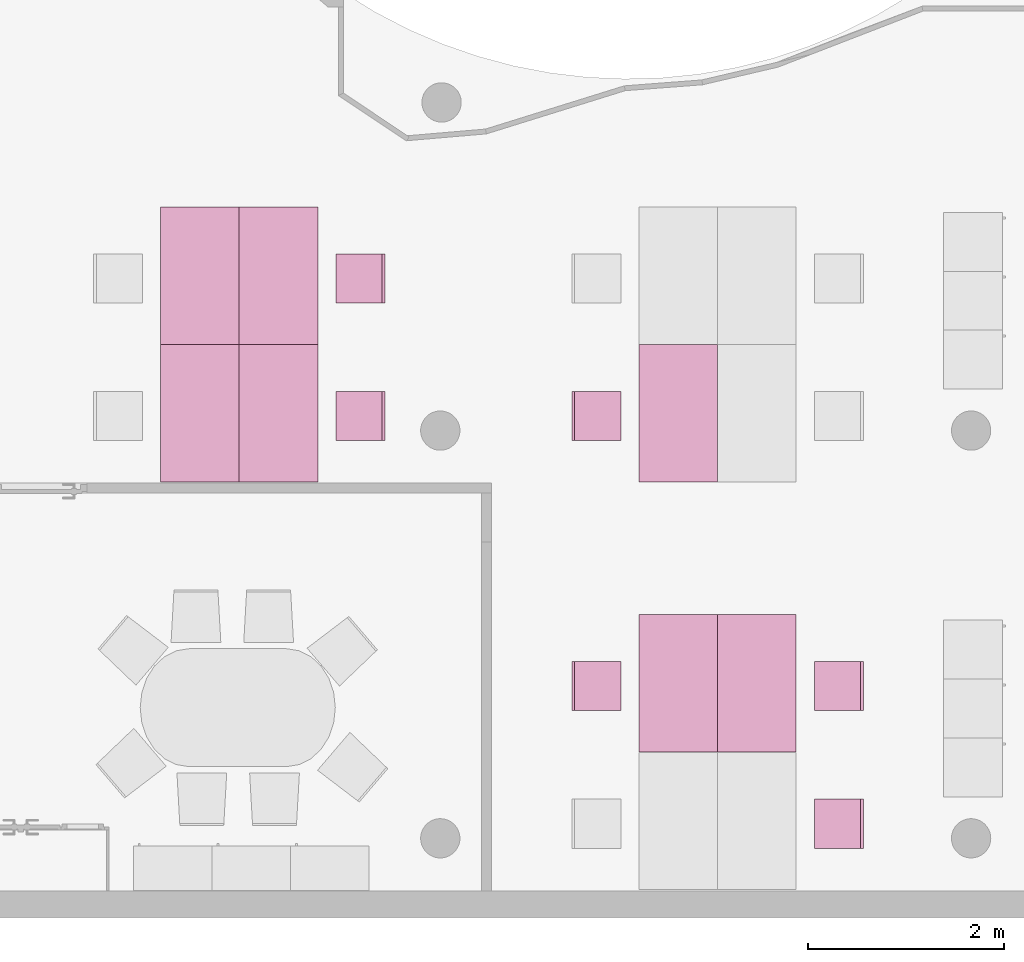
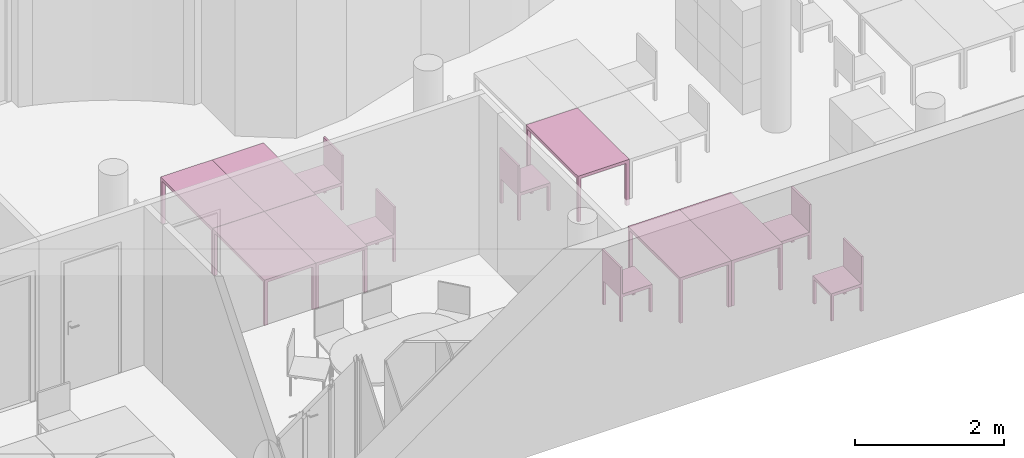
"""IFC4 building model written with IfcOpenShell, lengths in metres."""

from ifc_helpers import new_model, entity, si_unit, converted_unit, derived_unit, frame, origin, place, context, subcontext, project, spatial, faceted_brep, element, save


model = new_model("IFC4")

# Units and contexts
model_context = context("Model", 3, precision=1e-05, world=origin())
body_context = subcontext(model_context, "Body", "Model", "MODEL_VIEW")
ifc_project = project(units=[si_unit("LENGTHUNIT", "METRE"), si_unit("AREAUNIT", "SQUARE_METRE"), si_unit("VOLUMEUNIT", "CUBIC_METRE"), si_unit("MASSUNIT", "GRAM", prefix="KILO"), converted_unit("PLANEANGLEUNIT", "DEGREE", entity("IfcPlaneAngleMeasure", 0.0174532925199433), si_unit("PLANEANGLEUNIT", "RADIAN"), dimensions=[0, 0, 0, 0, 0, 0, 0]), derived_unit("THERMALTRANSMITTANCEUNIT", [(si_unit("POWERUNIT", "WATT"), 1), (si_unit("THERMODYNAMICTEMPERATUREUNIT", "KELVIN"), -1), (si_unit("LENGTHUNIT", "METRE"), -2)]), derived_unit("VOLUMETRICFLOWRATEUNIT", [(si_unit("LENGTHUNIT", "METRE"), 3), (converted_unit("TIMEUNIT", "hour", entity("IfcTimeMeasure", 3600.0), si_unit("TIMEUNIT", "SECOND"), dimensions=[0, 0, 1, 0, 0, 0, 0]), -1), (si_unit("LENGTHUNIT", "METRE"), -1)])], contexts=[model_context])

# Building, storeys
building_placement = place(None, origin())
building = spatial("IfcBuilding", under=ifc_project, at=building_placement, Name="HABITATGE PLURIFAMILIAR", CompositionType="ELEMENT")
storey_1_placement = place(building_placement, frame((0.0, 0.0, 12.27)))
storey_1 = spatial("IfcBuildingStorey", under=building, at=storey_1_placement, Name="PLANTA TERCERA", CompositionType="ELEMENT", Elevation=12.27)
storey_2_placement = place(storey_1_placement, frame((0.0, 0.0, 9.26)))
storey_2 = spatial("IfcBuildingStorey", under=storey_1, at=storey_2_placement, Name="NOU", CompositionType="PARTIAL")

# Furniture
furniture_1_placement = place(storey_2_placement, frame((413.556732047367, 14.5280503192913, -9.3599999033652)))
element("IfcFurniture", 1, at=furniture_1_placement, inside=storey_2, Name="Taula 140X80_P3", context=body_context, shape_type="Brep", body=[
    faceted_brep([(0.05, 0.0437500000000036, 0.0), (0.0, 0.0437500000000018, 0.0), (0.0, 0.0, 0.0), (0.05, 0.0, 0.0), (0.0, 0.0437500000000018, 0.7), (0.05, 0.0437500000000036, 0.7), (0.05, 0.0, 0.7), (0.0, 0.0, 0.7)], [[[0, 1, 2, 3]], [[4, 5, 6, 7]], [[1, 0, 5, 4]], [[2, 1, 4, 7]], [[3, 2, 7, 6]], [[0, 3, 6, 5]]], orient=[[False], [False], [False], [False], [False], [False]]),
    faceted_brep([(0.800069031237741, 0.0437500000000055, 0.0), (0.750069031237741, 0.0437500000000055, 0.0), (0.750069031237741, 0.0, 0.0), (0.800069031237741, 0.0, 0.0), (0.750069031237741, 0.0437500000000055, 0.7), (0.800069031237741, 0.0437500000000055, 0.7), (0.800069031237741, 0.0, 0.7), (0.750069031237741, 0.0, 0.7)], [[[0, 1, 2, 3]], [[4, 5, 6, 7]], [[1, 0, 5, 4]], [[2, 1, 4, 7]], [[3, 2, 7, 6]], [[0, 3, 6, 5]]], orient=[[False], [False], [False], [False], [False], [False]]),
    faceted_brep([(0.800069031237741, 1.39732768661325, 0.7), (0.0, 1.39732768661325, 0.7), (0.0, 0.0, 0.7), (0.800069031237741, 0.0, 0.7), (0.0, 1.39732768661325, 0.75), (0.800069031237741, 1.39732768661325, 0.75), (0.800069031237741, 0.0, 0.75), (0.0, 0.0, 0.75)], [[[0, 1, 2, 3]], [[4, 5, 6, 7]], [[1, 0, 5, 4]], [[2, 1, 4, 7]], [[3, 2, 7, 6]], [[0, 3, 6, 5]]], orient=[[False], [False], [False], [False], [False], [False]]),
    faceted_brep([(0.05, 1.39732768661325, 0.0), (0.0, 1.39732768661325, 0.0), (0.0, 1.35357768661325, 0.0), (0.05, 1.35357768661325, 0.0), (0.0, 1.39732768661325, 0.7), (0.05, 1.39732768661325, 0.7), (0.05, 1.35357768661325, 0.7), (0.0, 1.35357768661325, 0.7)], [[[0, 1, 2, 3]], [[4, 5, 6, 7]], [[1, 0, 5, 4]], [[2, 1, 4, 7]], [[3, 2, 7, 6]], [[0, 3, 6, 5]]], orient=[[False], [False], [False], [False], [False], [False]]),
    faceted_brep([(0.800069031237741, 1.39732768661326, 0.0), (0.750069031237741, 1.39732768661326, 0.0), (0.750069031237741, 1.35357768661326, 0.0), (0.800069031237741, 1.35357768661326, 0.0), (0.750069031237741, 1.39732768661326, 0.7), (0.800069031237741, 1.39732768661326, 0.7), (0.800069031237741, 1.35357768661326, 0.7), (0.750069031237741, 1.35357768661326, 0.7)], [[[0, 1, 2, 3]], [[4, 5, 6, 7]], [[1, 0, 5, 4]], [[2, 1, 4, 7]], [[3, 2, 7, 6]], [[0, 3, 6, 5]]], orient=[[False], [False], [False], [False], [False], [False]]),
])
furniture_2_placement = place(storey_2_placement, frame((412.75666301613, 14.5280503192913, -9.3599999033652)))
element("IfcFurniture", 2, at=furniture_2_placement, inside=storey_2, Name="Taula 140X80_P3", context=body_context, shape_type="Brep", body=[
    faceted_brep([(0.750069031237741, 0.0437500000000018, 0.0), (0.750069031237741, 0.0, 0.0), (0.800069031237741, 0.0, 0.0), (0.800069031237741, 0.0437500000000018, 0.0), (0.800069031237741, 0.0437500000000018, 0.7), (0.800069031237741, 0.0, 0.7), (0.750069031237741, 0.0, 0.7), (0.750069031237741, 0.0437500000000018, 0.7)], [[[0, 1, 2, 3]], [[4, 5, 6, 7]], [[3, 4, 7, 0]], [[2, 5, 4, 3]], [[1, 6, 5, 2]], [[0, 7, 6, 1]]], orient=[[False], [False], [False], [False], [False], [False]]),
    faceted_brep([(0.0, 0.0437500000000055, 0.0), (0.0, 0.0, 0.0), (0.05, 0.0, 0.0), (0.05, 0.0437500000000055, 0.0), (0.05, 0.0437500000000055, 0.7), (0.05, 0.0, 0.7), (0.0, 0.0, 0.7), (0.0, 0.0437500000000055, 0.7)], [[[0, 1, 2, 3]], [[4, 5, 6, 7]], [[3, 4, 7, 0]], [[2, 5, 4, 3]], [[1, 6, 5, 2]], [[0, 7, 6, 1]]], orient=[[False], [False], [False], [False], [False], [False]]),
    faceted_brep([(0.0, 1.39732768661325, 0.7), (0.0, 0.0, 0.7), (0.800069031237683, 0.0, 0.7), (0.800069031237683, 1.39732768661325, 0.7), (0.800069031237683, 1.39732768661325, 0.75), (0.800069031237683, 0.0, 0.75), (0.0, 0.0, 0.75), (0.0, 1.39732768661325, 0.75)], [[[0, 1, 2, 3]], [[4, 5, 6, 7]], [[3, 4, 7, 0]], [[2, 5, 4, 3]], [[1, 6, 5, 2]], [[0, 7, 6, 1]]], orient=[[False], [False], [False], [False], [False], [False]]),
    faceted_brep([(0.750069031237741, 1.39732768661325, 0.0), (0.750069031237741, 1.35357768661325, 0.0), (0.800069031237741, 1.35357768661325, 0.0), (0.800069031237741, 1.39732768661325, 0.0), (0.800069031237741, 1.39732768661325, 0.7), (0.800069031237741, 1.35357768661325, 0.7), (0.750069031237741, 1.35357768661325, 0.7), (0.750069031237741, 1.39732768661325, 0.7)], [[[0, 1, 2, 3]], [[4, 5, 6, 7]], [[3, 4, 7, 0]], [[2, 5, 4, 3]], [[1, 6, 5, 2]], [[0, 7, 6, 1]]], orient=[[False], [False], [False], [False], [False], [False]]),
    faceted_brep([(0.0, 1.39732768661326, 0.0), (0.0, 1.35357768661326, 0.0), (0.05, 1.35357768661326, 0.0), (0.05, 1.39732768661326, 0.0), (0.05, 1.39732768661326, 0.7), (0.05, 1.35357768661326, 0.7), (0.0, 1.35357768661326, 0.7), (0.0, 1.39732768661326, 0.7)], [[[0, 1, 2, 3]], [[4, 5, 6, 7]], [[3, 4, 7, 0]], [[2, 5, 4, 3]], [[1, 6, 5, 2]], [[0, 7, 6, 1]]], orient=[[False], [False], [False], [False], [False], [False]]),
])
furniture_3_placement = place(storey_2_placement, frame((414.540943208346, 13.5480313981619, -9.35590342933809)))
element("IfcFurniture", 3, at=furniture_3_placement, inside=storey_2, Name="Cadira d'Oficina_P3", context=body_context, shape_type="Brep", body=[
    faceted_brep([(0.0, 0.500000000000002, 0.4), (0.0, 0.0, 0.4), (0.5, 0.0, 0.4), (0.5, 0.5, 0.4), (0.5, 0.5, 0.45), (0.5, 0.0, 0.45), (0.0, 0.0, 0.45), (0.0, 0.500000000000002, 0.45)], [[[0, 1, 2, 3]], [[4, 5, 6, 7]], [[3, 4, 7, 0]], [[2, 5, 4, 3]], [[1, 6, 5, 2]], [[0, 7, 6, 1]]], orient=[[False], [False], [False], [False], [False], [False]]),
    faceted_brep([(0.46, 0.0, 0.0), (0.5, 0.0, 0.0), (0.5, 0.04, 0.0), (0.46, 0.0400000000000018, 0.0), (0.46, 0.0400000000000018, 0.4), (0.5, 0.04, 0.4), (0.5, 0.0, 0.4), (0.46, 0.0, 0.4)], [[[0, 1, 2, 3]], [[4, 5, 6, 7]], [[3, 4, 7, 0]], [[2, 5, 4, 3]], [[1, 6, 5, 2]], [[0, 7, 6, 1]]], orient=[[False], [False], [False], [False], [False], [False]]),
    faceted_brep([(0.0, 0.0, 0.0), (0.04, 0.0, 0.0), (0.04, 0.0400000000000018, 0.0), (0.0, 0.0400000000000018, 0.0), (0.0, 0.0400000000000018, 0.4), (0.04, 0.0400000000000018, 0.4), (0.04, 0.0, 0.4), (0.0, 0.0, 0.4)], [[[0, 1, 2, 3]], [[4, 5, 6, 7]], [[3, 4, 7, 0]], [[2, 5, 4, 3]], [[1, 6, 5, 2]], [[0, 7, 6, 1]]], orient=[[False], [False], [False], [False], [False], [False]]),
    faceted_brep([(0.46, 0.46, 0.0), (0.5, 0.46, 0.0), (0.5, 0.5, 0.0), (0.46, 0.5, 0.0), (0.46, 0.5, 0.4), (0.5, 0.5, 0.4), (0.5, 0.46, 0.4), (0.46, 0.46, 0.4)], [[[0, 1, 2, 3]], [[4, 5, 6, 7]], [[3, 4, 7, 0]], [[2, 5, 4, 3]], [[1, 6, 5, 2]], [[0, 7, 6, 1]]], orient=[[False], [False], [False], [False], [False], [False]]),
    faceted_brep([(0.0, 0.460000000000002, 0.0), (0.04, 0.460000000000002, 0.0), (0.04, 0.500000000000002, 0.0), (0.0, 0.500000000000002, 0.0), (0.0, 0.500000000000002, 0.4), (0.04, 0.500000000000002, 0.4), (0.04, 0.460000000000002, 0.4), (0.0, 0.460000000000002, 0.4)], [[[0, 1, 2, 3]], [[4, 5, 6, 7]], [[3, 4, 7, 0]], [[2, 5, 4, 3]], [[1, 6, 5, 2]], [[0, 7, 6, 1]]], orient=[[False], [False], [False], [False], [False], [False]]),
    faceted_brep([(0.47, 0.0, 0.45), (0.5, 0.0, 0.45), (0.5, 0.5, 0.45), (0.47, 0.5, 0.45), (0.47, 0.5, 0.9), (0.5, 0.5, 0.9), (0.5, 0.0, 0.9), (0.47, 0.0, 0.9)], [[[0, 1, 2, 3]], [[4, 5, 6, 7]], [[3, 4, 7, 0]], [[2, 5, 4, 3]], [[1, 6, 5, 2]], [[0, 7, 6, 1]]], orient=[[False], [False], [False], [False], [False], [False]]),
])
furniture_4_placement = place(storey_2_placement, frame((414.540943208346, 14.9492104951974, -9.35590342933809)))
element("IfcFurniture", 4, at=furniture_4_placement, inside=storey_2, Name="Cadira d'Oficina_P3", context=body_context, shape_type="Brep", body=[
    faceted_brep([(0.0, 0.500000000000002, 0.4), (0.0, 0.0, 0.4), (0.5, 0.0, 0.4), (0.5, 0.5, 0.4), (0.5, 0.5, 0.45), (0.5, 0.0, 0.45), (0.0, 0.0, 0.45), (0.0, 0.500000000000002, 0.45)], [[[0, 1, 2, 3]], [[4, 5, 6, 7]], [[3, 4, 7, 0]], [[2, 5, 4, 3]], [[1, 6, 5, 2]], [[0, 7, 6, 1]]], orient=[[False], [False], [False], [False], [False], [False]]),
    faceted_brep([(0.46, 0.0, 0.0), (0.5, 0.0, 0.0), (0.5, 0.04, 0.0), (0.46, 0.0400000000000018, 0.0), (0.46, 0.0400000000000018, 0.4), (0.5, 0.04, 0.4), (0.5, 0.0, 0.4), (0.46, 0.0, 0.4)], [[[0, 1, 2, 3]], [[4, 5, 6, 7]], [[3, 4, 7, 0]], [[2, 5, 4, 3]], [[1, 6, 5, 2]], [[0, 7, 6, 1]]], orient=[[False], [False], [False], [False], [False], [False]]),
    faceted_brep([(0.0, 0.0, 0.0), (0.04, 0.0, 0.0), (0.04, 0.0400000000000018, 0.0), (0.0, 0.0400000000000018, 0.0), (0.0, 0.0400000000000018, 0.4), (0.04, 0.0400000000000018, 0.4), (0.04, 0.0, 0.4), (0.0, 0.0, 0.4)], [[[0, 1, 2, 3]], [[4, 5, 6, 7]], [[3, 4, 7, 0]], [[2, 5, 4, 3]], [[1, 6, 5, 2]], [[0, 7, 6, 1]]], orient=[[False], [False], [False], [False], [False], [False]]),
    faceted_brep([(0.46, 0.46, 0.0), (0.5, 0.46, 0.0), (0.5, 0.5, 0.0), (0.46, 0.5, 0.0), (0.46, 0.5, 0.4), (0.5, 0.5, 0.4), (0.5, 0.46, 0.4), (0.46, 0.46, 0.4)], [[[0, 1, 2, 3]], [[4, 5, 6, 7]], [[3, 4, 7, 0]], [[2, 5, 4, 3]], [[1, 6, 5, 2]], [[0, 7, 6, 1]]], orient=[[False], [False], [False], [False], [False], [False]]),
    faceted_brep([(0.0, 0.460000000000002, 0.0), (0.04, 0.460000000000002, 0.0), (0.04, 0.500000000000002, 0.0), (0.0, 0.500000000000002, 0.0), (0.0, 0.500000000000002, 0.4), (0.04, 0.500000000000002, 0.4), (0.04, 0.460000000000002, 0.4), (0.0, 0.460000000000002, 0.4)], [[[0, 1, 2, 3]], [[4, 5, 6, 7]], [[3, 4, 7, 0]], [[2, 5, 4, 3]], [[1, 6, 5, 2]], [[0, 7, 6, 1]]], orient=[[False], [False], [False], [False], [False], [False]]),
    faceted_brep([(0.47, 0.0, 0.45), (0.5, 0.0, 0.45), (0.5, 0.5, 0.45), (0.47, 0.5, 0.45), (0.47, 0.5, 0.9), (0.5, 0.5, 0.9), (0.5, 0.0, 0.9), (0.47, 0.0, 0.9)], [[[0, 1, 2, 3]], [[4, 5, 6, 7]], [[3, 4, 7, 0]], [[2, 5, 4, 3]], [[1, 6, 5, 2]], [[0, 7, 6, 1]]], orient=[[False], [False], [False], [False], [False], [False]]),
])
furniture_5_placement = place(storey_2_placement, frame((412.072520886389, 14.9492104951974, -9.3546338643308)))
element("IfcFurniture", 5, at=furniture_5_placement, inside=storey_2, Name="Cadira d'Oficina_P3", context=body_context, shape_type="Brep", body=[
    faceted_brep([(0.500000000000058, 0.500000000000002, 0.4), (0.0, 0.5, 0.4), (0.0, 0.0, 0.4), (0.500000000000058, 0.0, 0.4), (0.0, 0.5, 0.45), (0.500000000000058, 0.500000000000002, 0.45), (0.500000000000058, 0.0, 0.45), (0.0, 0.0, 0.45)], [[[0, 1, 2, 3]], [[4, 5, 6, 7]], [[1, 0, 5, 4]], [[2, 1, 4, 7]], [[3, 2, 7, 6]], [[0, 3, 6, 5]]], orient=[[False], [False], [False], [False], [False], [False]]),
    faceted_brep([(0.0400000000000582, 0.0, 0.0), (0.0400000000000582, 0.0400000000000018, 0.0), (0.0, 0.04, 0.0), (0.0, 0.0, 0.0), (0.0400000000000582, 0.0400000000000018, 0.4), (0.0400000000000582, 0.0, 0.4), (0.0, 0.0, 0.4), (0.0, 0.04, 0.4)], [[[0, 1, 2, 3]], [[4, 5, 6, 7]], [[1, 0, 5, 4]], [[2, 1, 4, 7]], [[3, 2, 7, 6]], [[0, 3, 6, 5]]], orient=[[False], [False], [False], [False], [False], [False]]),
    faceted_brep([(0.500000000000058, 0.0, 0.0), (0.500000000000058, 0.0400000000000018, 0.0), (0.460000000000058, 0.0400000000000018, 0.0), (0.460000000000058, 0.0, 0.0), (0.500000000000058, 0.0400000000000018, 0.4), (0.500000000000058, 0.0, 0.4), (0.460000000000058, 0.0, 0.4), (0.460000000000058, 0.0400000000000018, 0.4)], [[[0, 1, 2, 3]], [[4, 5, 6, 7]], [[1, 0, 5, 4]], [[2, 1, 4, 7]], [[3, 2, 7, 6]], [[0, 3, 6, 5]]], orient=[[False], [False], [False], [False], [False], [False]]),
    faceted_brep([(0.04, 0.46, 0.0), (0.04, 0.5, 0.0), (0.0, 0.5, 0.0), (0.0, 0.46, 0.0), (0.04, 0.5, 0.4), (0.04, 0.46, 0.4), (0.0, 0.46, 0.4), (0.0, 0.5, 0.4)], [[[0, 1, 2, 3]], [[4, 5, 6, 7]], [[1, 0, 5, 4]], [[2, 1, 4, 7]], [[3, 2, 7, 6]], [[0, 3, 6, 5]]], orient=[[False], [False], [False], [False], [False], [False]]),
    faceted_brep([(0.500000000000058, 0.460000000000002, 0.0), (0.500000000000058, 0.500000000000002, 0.0), (0.460000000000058, 0.500000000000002, 0.0), (0.460000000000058, 0.460000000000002, 0.0), (0.500000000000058, 0.500000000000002, 0.4), (0.500000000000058, 0.460000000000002, 0.4), (0.460000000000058, 0.460000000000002, 0.4), (0.460000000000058, 0.500000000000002, 0.4)], [[[0, 1, 2, 3]], [[4, 5, 6, 7]], [[1, 0, 5, 4]], [[2, 1, 4, 7]], [[3, 2, 7, 6]], [[0, 3, 6, 5]]], orient=[[False], [False], [False], [False], [False], [False]]),
    faceted_brep([(0.0300000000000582, 0.0, 0.45), (0.03, 0.5, 0.45), (0.0, 0.5, 0.45), (0.0, 0.0, 0.45), (0.03, 0.5, 0.9), (0.0300000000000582, 0.0, 0.9), (0.0, 0.0, 0.9), (0.0, 0.5, 0.9)], [[[0, 1, 2, 3]], [[4, 5, 6, 7]], [[1, 0, 5, 4]], [[2, 1, 4, 7]], [[3, 2, 7, 6]], [[0, 3, 6, 5]]], orient=[[False], [False], [False], [False], [False], [False]]),
])
furniture_6_placement = place(storey_2_placement, frame((412.75666301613, 17.2768712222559, -9.3599999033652)))
element("IfcFurniture", 6, at=furniture_6_placement, inside=storey_2, Name="Taula 140X80_P3", context=body_context, shape_type="Brep", body=[
    faceted_brep([(0.750069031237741, 0.04375, 0.0), (0.750069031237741, 0.0, 0.0), (0.800069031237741, 0.0, 0.0), (0.800069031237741, 0.04375, 0.0), (0.800069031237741, 0.04375, 0.7), (0.800069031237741, 0.0, 0.7), (0.750069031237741, 0.0, 0.7), (0.750069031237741, 0.04375, 0.7)], [[[0, 1, 2, 3]], [[4, 5, 6, 7]], [[3, 4, 7, 0]], [[2, 5, 4, 3]], [[1, 6, 5, 2]], [[0, 7, 6, 1]]], orient=[[False], [False], [False], [False], [False], [False]]),
    faceted_brep([(0.0, 0.04375, 0.0), (0.0, 0.0, 0.0), (0.05, 0.0, 0.0), (0.05, 0.04375, 0.0), (0.05, 0.04375, 0.7), (0.05, 0.0, 0.7), (0.0, 0.0, 0.7), (0.0, 0.04375, 0.7)], [[[0, 1, 2, 3]], [[4, 5, 6, 7]], [[3, 4, 7, 0]], [[2, 5, 4, 3]], [[1, 6, 5, 2]], [[0, 7, 6, 1]]], orient=[[False], [False], [False], [False], [False], [False]]),
    faceted_brep([(0.0, 1.39732768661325, 0.7), (0.0, 0.0, 0.7), (0.800069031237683, 0.0, 0.7), (0.800069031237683, 1.39732768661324, 0.7), (0.800069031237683, 1.39732768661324, 0.75), (0.800069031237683, 0.0, 0.75), (0.0, 0.0, 0.75), (0.0, 1.39732768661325, 0.75)], [[[0, 1, 2, 3]], [[4, 5, 6, 7]], [[3, 4, 7, 0]], [[2, 5, 4, 3]], [[1, 6, 5, 2]], [[0, 7, 6, 1]]], orient=[[False], [False], [False], [False], [False], [False]]),
    faceted_brep([(0.750069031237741, 1.39732768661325, 0.0), (0.750069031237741, 1.35357768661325, 0.0), (0.800069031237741, 1.35357768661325, 0.0), (0.800069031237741, 1.39732768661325, 0.0), (0.800069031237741, 1.39732768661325, 0.7), (0.800069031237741, 1.35357768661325, 0.7), (0.750069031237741, 1.35357768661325, 0.7), (0.750069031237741, 1.39732768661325, 0.7)], [[[0, 1, 2, 3]], [[4, 5, 6, 7]], [[3, 4, 7, 0]], [[2, 5, 4, 3]], [[1, 6, 5, 2]], [[0, 7, 6, 1]]], orient=[[False], [False], [False], [False], [False], [False]]),
    faceted_brep([(0.0, 1.39732768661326, 0.0), (0.0, 1.35357768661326, 0.0), (0.05, 1.35357768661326, 0.0), (0.05, 1.39732768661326, 0.0), (0.05, 1.39732768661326, 0.7), (0.05, 1.35357768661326, 0.7), (0.0, 1.35357768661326, 0.7), (0.0, 1.39732768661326, 0.7)], [[[0, 1, 2, 3]], [[4, 5, 6, 7]], [[3, 4, 7, 0]], [[2, 5, 4, 3]], [[1, 6, 5, 2]], [[0, 7, 6, 1]]], orient=[[False], [False], [False], [False], [False], [False]]),
])
furniture_7_placement = place(storey_2_placement, frame((412.072520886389, 17.6980313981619, -9.3546338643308)))
element("IfcFurniture", 7, at=furniture_7_placement, inside=storey_2, Name="Cadira d'Oficina_P3", context=body_context, shape_type="Brep", body=[
    faceted_brep([(0.500000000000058, 0.5, 0.4), (0.0, 0.5, 0.4), (0.0, 0.0, 0.4), (0.500000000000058, 0.0, 0.4), (0.0, 0.5, 0.45), (0.500000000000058, 0.5, 0.45), (0.500000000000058, 0.0, 0.45), (0.0, 0.0, 0.45)], [[[0, 1, 2, 3]], [[4, 5, 6, 7]], [[1, 0, 5, 4]], [[2, 1, 4, 7]], [[3, 2, 7, 6]], [[0, 3, 6, 5]]], orient=[[False], [False], [False], [False], [False], [False]]),
    faceted_brep([(0.0400000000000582, 0.0, 0.0), (0.0400000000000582, 0.04, 0.0), (0.0, 0.04, 0.0), (0.0, 0.0, 0.0), (0.0400000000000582, 0.04, 0.4), (0.0400000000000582, 0.0, 0.4), (0.0, 0.0, 0.4), (0.0, 0.04, 0.4)], [[[0, 1, 2, 3]], [[4, 5, 6, 7]], [[1, 0, 5, 4]], [[2, 1, 4, 7]], [[3, 2, 7, 6]], [[0, 3, 6, 5]]], orient=[[False], [False], [False], [False], [False], [False]]),
    faceted_brep([(0.500000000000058, 0.0, 0.0), (0.500000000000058, 0.04, 0.0), (0.460000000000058, 0.04, 0.0), (0.460000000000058, 0.0, 0.0), (0.500000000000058, 0.04, 0.4), (0.500000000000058, 0.0, 0.4), (0.460000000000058, 0.0, 0.4), (0.460000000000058, 0.04, 0.4)], [[[0, 1, 2, 3]], [[4, 5, 6, 7]], [[1, 0, 5, 4]], [[2, 1, 4, 7]], [[3, 2, 7, 6]], [[0, 3, 6, 5]]], orient=[[False], [False], [False], [False], [False], [False]]),
    faceted_brep([(0.04, 0.46, 0.0), (0.04, 0.5, 0.0), (0.0, 0.5, 0.0), (0.0, 0.46, 0.0), (0.04, 0.5, 0.4), (0.04, 0.46, 0.4), (0.0, 0.46, 0.4), (0.0, 0.5, 0.4)], [[[0, 1, 2, 3]], [[4, 5, 6, 7]], [[1, 0, 5, 4]], [[2, 1, 4, 7]], [[3, 2, 7, 6]], [[0, 3, 6, 5]]], orient=[[False], [False], [False], [False], [False], [False]]),
    faceted_brep([(0.500000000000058, 0.46, 0.0), (0.500000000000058, 0.5, 0.0), (0.460000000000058, 0.5, 0.0), (0.460000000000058, 0.46, 0.0), (0.500000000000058, 0.5, 0.4), (0.500000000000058, 0.46, 0.4), (0.460000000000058, 0.46, 0.4), (0.460000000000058, 0.5, 0.4)], [[[0, 1, 2, 3]], [[4, 5, 6, 7]], [[1, 0, 5, 4]], [[2, 1, 4, 7]], [[3, 2, 7, 6]], [[0, 3, 6, 5]]], orient=[[False], [False], [False], [False], [False], [False]]),
    faceted_brep([(0.0300000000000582, 0.0, 0.45), (0.03, 0.5, 0.45), (0.0, 0.5, 0.45), (0.0, 0.0, 0.45), (0.03, 0.5, 0.9), (0.0300000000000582, 0.0, 0.9), (0.0, 0.0, 0.9), (0.0, 0.5, 0.9)], [[[0, 1, 2, 3]], [[4, 5, 6, 7]], [[1, 0, 5, 4]], [[2, 1, 4, 7]], [[3, 2, 7, 6]], [[0, 3, 6, 5]]], orient=[[False], [False], [False], [False], [False], [False]]),
])
furniture_8_placement = place(storey_2_placement, frame((408.686732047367, 17.2768712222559, -9.3599999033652)))
element("IfcFurniture", 8, at=furniture_8_placement, inside=storey_2, Name="Taula 140X80_P3", context=body_context, shape_type="Brep", body=[
    faceted_brep([(0.05, 0.04375, 0.0), (0.0, 0.04375, 0.0), (0.0, 0.0, 0.0), (0.05, 0.0, 0.0), (0.0, 0.04375, 0.7), (0.05, 0.04375, 0.7), (0.05, 0.0, 0.7), (0.0, 0.0, 0.7)], [[[0, 1, 2, 3]], [[4, 5, 6, 7]], [[1, 0, 5, 4]], [[2, 1, 4, 7]], [[3, 2, 7, 6]], [[0, 3, 6, 5]]], orient=[[False], [False], [False], [False], [False], [False]]),
    faceted_brep([(0.800069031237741, 0.04375, 0.0), (0.750069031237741, 0.04375, 0.0), (0.750069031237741, 0.0, 0.0), (0.800069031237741, 0.0, 0.0), (0.750069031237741, 0.04375, 0.7), (0.800069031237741, 0.04375, 0.7), (0.800069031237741, 0.0, 0.7), (0.750069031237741, 0.0, 0.7)], [[[0, 1, 2, 3]], [[4, 5, 6, 7]], [[1, 0, 5, 4]], [[2, 1, 4, 7]], [[3, 2, 7, 6]], [[0, 3, 6, 5]]], orient=[[False], [False], [False], [False], [False], [False]]),
    faceted_brep([(0.800069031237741, 1.39732768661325, 0.7), (0.0, 1.39732768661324, 0.7), (0.0, 0.0, 0.7), (0.800069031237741, 0.0, 0.7), (0.0, 1.39732768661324, 0.75), (0.800069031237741, 1.39732768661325, 0.75), (0.800069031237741, 0.0, 0.75), (0.0, 0.0, 0.75)], [[[0, 1, 2, 3]], [[4, 5, 6, 7]], [[1, 0, 5, 4]], [[2, 1, 4, 7]], [[3, 2, 7, 6]], [[0, 3, 6, 5]]], orient=[[False], [False], [False], [False], [False], [False]]),
    faceted_brep([(0.05, 1.39732768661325, 0.0), (0.0, 1.39732768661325, 0.0), (0.0, 1.35357768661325, 0.0), (0.05, 1.35357768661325, 0.0), (0.0, 1.39732768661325, 0.7), (0.05, 1.39732768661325, 0.7), (0.05, 1.35357768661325, 0.7), (0.0, 1.35357768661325, 0.7)], [[[0, 1, 2, 3]], [[4, 5, 6, 7]], [[1, 0, 5, 4]], [[2, 1, 4, 7]], [[3, 2, 7, 6]], [[0, 3, 6, 5]]], orient=[[False], [False], [False], [False], [False], [False]]),
    faceted_brep([(0.800069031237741, 1.39732768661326, 0.0), (0.750069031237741, 1.39732768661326, 0.0), (0.750069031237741, 1.35357768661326, 0.0), (0.800069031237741, 1.35357768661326, 0.0), (0.750069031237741, 1.39732768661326, 0.7), (0.800069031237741, 1.39732768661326, 0.7), (0.800069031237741, 1.35357768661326, 0.7), (0.750069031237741, 1.35357768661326, 0.7)], [[[0, 1, 2, 3]], [[4, 5, 6, 7]], [[1, 0, 5, 4]], [[2, 1, 4, 7]], [[3, 2, 7, 6]], [[0, 3, 6, 5]]], orient=[[False], [False], [False], [False], [False], [False]]),
])
furniture_9_placement = place(storey_2_placement, frame((407.88666301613, 17.2768712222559, -9.3599999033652)))
element("IfcFurniture", 9, at=furniture_9_placement, inside=storey_2, Name="Taula 140X80_P3", context=body_context, shape_type="Brep", body=[
    faceted_brep([(0.750069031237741, 0.04375, 0.0), (0.750069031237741, 0.0, 0.0), (0.800069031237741, 0.0, 0.0), (0.800069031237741, 0.04375, 0.0), (0.800069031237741, 0.04375, 0.7), (0.800069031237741, 0.0, 0.7), (0.750069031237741, 0.0, 0.7), (0.750069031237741, 0.04375, 0.7)], [[[0, 1, 2, 3]], [[4, 5, 6, 7]], [[3, 4, 7, 0]], [[2, 5, 4, 3]], [[1, 6, 5, 2]], [[0, 7, 6, 1]]], orient=[[False], [False], [False], [False], [False], [False]]),
    faceted_brep([(0.0, 0.04375, 0.0), (0.0, 0.0, 0.0), (0.05, 0.0, 0.0), (0.05, 0.04375, 0.0), (0.05, 0.04375, 0.7), (0.05, 0.0, 0.7), (0.0, 0.0, 0.7), (0.0, 0.04375, 0.7)], [[[0, 1, 2, 3]], [[4, 5, 6, 7]], [[3, 4, 7, 0]], [[2, 5, 4, 3]], [[1, 6, 5, 2]], [[0, 7, 6, 1]]], orient=[[False], [False], [False], [False], [False], [False]]),
    faceted_brep([(0.0, 1.39732768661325, 0.7), (0.0, 0.0, 0.7), (0.800069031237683, 0.0, 0.7), (0.800069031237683, 1.39732768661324, 0.7), (0.800069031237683, 1.39732768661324, 0.75), (0.800069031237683, 0.0, 0.75), (0.0, 0.0, 0.75), (0.0, 1.39732768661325, 0.75)], [[[0, 1, 2, 3]], [[4, 5, 6, 7]], [[3, 4, 7, 0]], [[2, 5, 4, 3]], [[1, 6, 5, 2]], [[0, 7, 6, 1]]], orient=[[False], [False], [False], [False], [False], [False]]),
    faceted_brep([(0.750069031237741, 1.39732768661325, 0.0), (0.750069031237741, 1.35357768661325, 0.0), (0.800069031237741, 1.35357768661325, 0.0), (0.800069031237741, 1.39732768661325, 0.0), (0.800069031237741, 1.39732768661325, 0.7), (0.800069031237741, 1.35357768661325, 0.7), (0.750069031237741, 1.35357768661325, 0.7), (0.750069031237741, 1.39732768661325, 0.7)], [[[0, 1, 2, 3]], [[4, 5, 6, 7]], [[3, 4, 7, 0]], [[2, 5, 4, 3]], [[1, 6, 5, 2]], [[0, 7, 6, 1]]], orient=[[False], [False], [False], [False], [False], [False]]),
    faceted_brep([(0.0, 1.39732768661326, 0.0), (0.0, 1.35357768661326, 0.0), (0.05, 1.35357768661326, 0.0), (0.05, 1.39732768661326, 0.0), (0.05, 1.39732768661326, 0.7), (0.05, 1.35357768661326, 0.7), (0.0, 1.35357768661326, 0.7), (0.0, 1.39732768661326, 0.7)], [[[0, 1, 2, 3]], [[4, 5, 6, 7]], [[3, 4, 7, 0]], [[2, 5, 4, 3]], [[1, 6, 5, 2]], [[0, 7, 6, 1]]], orient=[[False], [False], [False], [False], [False], [False]]),
])
furniture_10_placement = place(storey_2_placement, frame((408.686732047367, 18.6780503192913, -9.3599999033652)))
element("IfcFurniture", 10, at=furniture_10_placement, inside=storey_2, Name="Taula 140X80_P3", context=body_context, shape_type="Brep", body=[
    faceted_brep([(0.05, 0.04375, 0.0), (0.0, 0.04375, 0.0), (0.0, 0.0, 0.0), (0.05, 0.0, 0.0), (0.0, 0.04375, 0.7), (0.05, 0.04375, 0.7), (0.05, 0.0, 0.7), (0.0, 0.0, 0.7)], [[[0, 1, 2, 3]], [[4, 5, 6, 7]], [[1, 0, 5, 4]], [[2, 1, 4, 7]], [[3, 2, 7, 6]], [[0, 3, 6, 5]]], orient=[[False], [False], [False], [False], [False], [False]]),
    faceted_brep([(0.800069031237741, 0.04375, 0.0), (0.750069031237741, 0.04375, 0.0), (0.750069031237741, 0.0, 0.0), (0.800069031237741, 0.0, 0.0), (0.750069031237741, 0.04375, 0.7), (0.800069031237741, 0.04375, 0.7), (0.800069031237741, 0.0, 0.7), (0.750069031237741, 0.0, 0.7)], [[[0, 1, 2, 3]], [[4, 5, 6, 7]], [[1, 0, 5, 4]], [[2, 1, 4, 7]], [[3, 2, 7, 6]], [[0, 3, 6, 5]]], orient=[[False], [False], [False], [False], [False], [False]]),
    faceted_brep([(0.800069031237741, 1.39732768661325, 0.7), (0.0, 1.39732768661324, 0.7), (0.0, 0.0, 0.7), (0.800069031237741, 0.0, 0.7), (0.0, 1.39732768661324, 0.75), (0.800069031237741, 1.39732768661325, 0.75), (0.800069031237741, 0.0, 0.75), (0.0, 0.0, 0.75)], [[[0, 1, 2, 3]], [[4, 5, 6, 7]], [[1, 0, 5, 4]], [[2, 1, 4, 7]], [[3, 2, 7, 6]], [[0, 3, 6, 5]]], orient=[[False], [False], [False], [False], [False], [False]]),
    faceted_brep([(0.05, 1.39732768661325, 0.0), (0.0, 1.39732768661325, 0.0), (0.0, 1.35357768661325, 0.0), (0.05, 1.35357768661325, 0.0), (0.0, 1.39732768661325, 0.7), (0.05, 1.39732768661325, 0.7), (0.05, 1.35357768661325, 0.7), (0.0, 1.35357768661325, 0.7)], [[[0, 1, 2, 3]], [[4, 5, 6, 7]], [[1, 0, 5, 4]], [[2, 1, 4, 7]], [[3, 2, 7, 6]], [[0, 3, 6, 5]]], orient=[[False], [False], [False], [False], [False], [False]]),
    faceted_brep([(0.800069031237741, 1.39732768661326, 0.0), (0.750069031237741, 1.39732768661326, 0.0), (0.750069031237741, 1.35357768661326, 0.0), (0.800069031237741, 1.35357768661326, 0.0), (0.750069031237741, 1.39732768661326, 0.7), (0.800069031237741, 1.39732768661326, 0.7), (0.800069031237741, 1.35357768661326, 0.7), (0.750069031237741, 1.35357768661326, 0.7)], [[[0, 1, 2, 3]], [[4, 5, 6, 7]], [[1, 0, 5, 4]], [[2, 1, 4, 7]], [[3, 2, 7, 6]], [[0, 3, 6, 5]]], orient=[[False], [False], [False], [False], [False], [False]]),
])
furniture_11_placement = place(storey_2_placement, frame((407.88666301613, 18.6780503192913, -9.3599999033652)))
element("IfcFurniture", 11, at=furniture_11_placement, inside=storey_2, Name="Taula 140X80_P3", context=body_context, shape_type="Brep", body=[
    faceted_brep([(0.750069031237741, 0.04375, 0.0), (0.750069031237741, 0.0, 0.0), (0.800069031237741, 0.0, 0.0), (0.800069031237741, 0.04375, 0.0), (0.800069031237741, 0.04375, 0.7), (0.800069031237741, 0.0, 0.7), (0.750069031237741, 0.0, 0.7), (0.750069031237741, 0.04375, 0.7)], [[[0, 1, 2, 3]], [[4, 5, 6, 7]], [[3, 4, 7, 0]], [[2, 5, 4, 3]], [[1, 6, 5, 2]], [[0, 7, 6, 1]]], orient=[[False], [False], [False], [False], [False], [False]]),
    faceted_brep([(0.0, 0.04375, 0.0), (0.0, 0.0, 0.0), (0.05, 0.0, 0.0), (0.05, 0.04375, 0.0), (0.05, 0.04375, 0.7), (0.05, 0.0, 0.7), (0.0, 0.0, 0.7), (0.0, 0.04375, 0.7)], [[[0, 1, 2, 3]], [[4, 5, 6, 7]], [[3, 4, 7, 0]], [[2, 5, 4, 3]], [[1, 6, 5, 2]], [[0, 7, 6, 1]]], orient=[[False], [False], [False], [False], [False], [False]]),
    faceted_brep([(0.0, 1.39732768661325, 0.7), (0.0, 0.0, 0.7), (0.800069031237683, 0.0, 0.7), (0.800069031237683, 1.39732768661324, 0.7), (0.800069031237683, 1.39732768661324, 0.75), (0.800069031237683, 0.0, 0.75), (0.0, 0.0, 0.75), (0.0, 1.39732768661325, 0.75)], [[[0, 1, 2, 3]], [[4, 5, 6, 7]], [[3, 4, 7, 0]], [[2, 5, 4, 3]], [[1, 6, 5, 2]], [[0, 7, 6, 1]]], orient=[[False], [False], [False], [False], [False], [False]]),
    faceted_brep([(0.750069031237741, 1.39732768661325, 0.0), (0.750069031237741, 1.35357768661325, 0.0), (0.800069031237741, 1.35357768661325, 0.0), (0.800069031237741, 1.39732768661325, 0.0), (0.800069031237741, 1.39732768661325, 0.7), (0.800069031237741, 1.35357768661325, 0.7), (0.750069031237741, 1.35357768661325, 0.7), (0.750069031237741, 1.39732768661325, 0.7)], [[[0, 1, 2, 3]], [[4, 5, 6, 7]], [[3, 4, 7, 0]], [[2, 5, 4, 3]], [[1, 6, 5, 2]], [[0, 7, 6, 1]]], orient=[[False], [False], [False], [False], [False], [False]]),
    faceted_brep([(0.0, 1.39732768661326, 0.0), (0.0, 1.35357768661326, 0.0), (0.05, 1.35357768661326, 0.0), (0.05, 1.39732768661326, 0.0), (0.05, 1.39732768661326, 0.7), (0.05, 1.35357768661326, 0.7), (0.0, 1.35357768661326, 0.7), (0.0, 1.39732768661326, 0.7)], [[[0, 1, 2, 3]], [[4, 5, 6, 7]], [[3, 4, 7, 0]], [[2, 5, 4, 3]], [[1, 6, 5, 2]], [[0, 7, 6, 1]]], orient=[[False], [False], [False], [False], [False], [False]]),
])
furniture_12_placement = place(storey_2_placement, frame((409.670943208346, 17.6980313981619, -9.35590342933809)))
element("IfcFurniture", 12, at=furniture_12_placement, inside=storey_2, Name="Cadira d'Oficina_P3", context=body_context, shape_type="Brep", body=[
    faceted_brep([(0.0, 0.5, 0.4), (0.0, 0.0, 0.4), (0.5, 0.0, 0.4), (0.5, 0.5, 0.4), (0.5, 0.5, 0.45), (0.5, 0.0, 0.45), (0.0, 0.0, 0.45), (0.0, 0.5, 0.45)], [[[0, 1, 2, 3]], [[4, 5, 6, 7]], [[3, 4, 7, 0]], [[2, 5, 4, 3]], [[1, 6, 5, 2]], [[0, 7, 6, 1]]], orient=[[False], [False], [False], [False], [False], [False]]),
    faceted_brep([(0.46, 0.0, 0.0), (0.5, 0.0, 0.0), (0.5, 0.04, 0.0), (0.46, 0.04, 0.0), (0.46, 0.04, 0.4), (0.5, 0.04, 0.4), (0.5, 0.0, 0.4), (0.46, 0.0, 0.4)], [[[0, 1, 2, 3]], [[4, 5, 6, 7]], [[3, 4, 7, 0]], [[2, 5, 4, 3]], [[1, 6, 5, 2]], [[0, 7, 6, 1]]], orient=[[False], [False], [False], [False], [False], [False]]),
    faceted_brep([(0.0, 0.0, 0.0), (0.04, 0.0, 0.0), (0.04, 0.04, 0.0), (0.0, 0.04, 0.0), (0.0, 0.04, 0.4), (0.04, 0.04, 0.4), (0.04, 0.0, 0.4), (0.0, 0.0, 0.4)], [[[0, 1, 2, 3]], [[4, 5, 6, 7]], [[3, 4, 7, 0]], [[2, 5, 4, 3]], [[1, 6, 5, 2]], [[0, 7, 6, 1]]], orient=[[False], [False], [False], [False], [False], [False]]),
    faceted_brep([(0.46, 0.46, 0.0), (0.5, 0.46, 0.0), (0.5, 0.5, 0.0), (0.46, 0.5, 0.0), (0.46, 0.5, 0.4), (0.5, 0.5, 0.4), (0.5, 0.46, 0.4), (0.46, 0.46, 0.4)], [[[0, 1, 2, 3]], [[4, 5, 6, 7]], [[3, 4, 7, 0]], [[2, 5, 4, 3]], [[1, 6, 5, 2]], [[0, 7, 6, 1]]], orient=[[False], [False], [False], [False], [False], [False]]),
    faceted_brep([(0.0, 0.46, 0.0), (0.04, 0.46, 0.0), (0.04, 0.5, 0.0), (0.0, 0.5, 0.0), (0.0, 0.5, 0.4), (0.04, 0.5, 0.4), (0.04, 0.46, 0.4), (0.0, 0.46, 0.4)], [[[0, 1, 2, 3]], [[4, 5, 6, 7]], [[3, 4, 7, 0]], [[2, 5, 4, 3]], [[1, 6, 5, 2]], [[0, 7, 6, 1]]], orient=[[False], [False], [False], [False], [False], [False]]),
    faceted_brep([(0.47, 0.0, 0.45), (0.5, 0.0, 0.45), (0.5, 0.5, 0.45), (0.47, 0.5, 0.45), (0.47, 0.5, 0.9), (0.5, 0.5, 0.9), (0.5, 0.0, 0.9), (0.47, 0.0, 0.9)], [[[0, 1, 2, 3]], [[4, 5, 6, 7]], [[3, 4, 7, 0]], [[2, 5, 4, 3]], [[1, 6, 5, 2]], [[0, 7, 6, 1]]], orient=[[False], [False], [False], [False], [False], [False]]),
])
furniture_13_placement = place(storey_2_placement, frame((409.670943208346, 19.0992104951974, -9.35590342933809)))
element("IfcFurniture", 13, at=furniture_13_placement, inside=storey_2, Name="Cadira d'Oficina_P3", context=body_context, shape_type="Brep", body=[
    faceted_brep([(0.0, 0.5, 0.4), (0.0, 0.0, 0.4), (0.5, 0.0, 0.4), (0.5, 0.5, 0.4), (0.5, 0.5, 0.45), (0.5, 0.0, 0.45), (0.0, 0.0, 0.45), (0.0, 0.5, 0.45)], [[[0, 1, 2, 3]], [[4, 5, 6, 7]], [[3, 4, 7, 0]], [[2, 5, 4, 3]], [[1, 6, 5, 2]], [[0, 7, 6, 1]]], orient=[[False], [False], [False], [False], [False], [False]]),
    faceted_brep([(0.46, 0.0, 0.0), (0.5, 0.0, 0.0), (0.5, 0.04, 0.0), (0.46, 0.04, 0.0), (0.46, 0.04, 0.4), (0.5, 0.04, 0.4), (0.5, 0.0, 0.4), (0.46, 0.0, 0.4)], [[[0, 1, 2, 3]], [[4, 5, 6, 7]], [[3, 4, 7, 0]], [[2, 5, 4, 3]], [[1, 6, 5, 2]], [[0, 7, 6, 1]]], orient=[[False], [False], [False], [False], [False], [False]]),
    faceted_brep([(0.0, 0.0, 0.0), (0.04, 0.0, 0.0), (0.04, 0.04, 0.0), (0.0, 0.04, 0.0), (0.0, 0.04, 0.4), (0.04, 0.04, 0.4), (0.04, 0.0, 0.4), (0.0, 0.0, 0.4)], [[[0, 1, 2, 3]], [[4, 5, 6, 7]], [[3, 4, 7, 0]], [[2, 5, 4, 3]], [[1, 6, 5, 2]], [[0, 7, 6, 1]]], orient=[[False], [False], [False], [False], [False], [False]]),
    faceted_brep([(0.46, 0.46, 0.0), (0.5, 0.46, 0.0), (0.5, 0.5, 0.0), (0.46, 0.5, 0.0), (0.46, 0.5, 0.4), (0.5, 0.5, 0.4), (0.5, 0.46, 0.4), (0.46, 0.46, 0.4)], [[[0, 1, 2, 3]], [[4, 5, 6, 7]], [[3, 4, 7, 0]], [[2, 5, 4, 3]], [[1, 6, 5, 2]], [[0, 7, 6, 1]]], orient=[[False], [False], [False], [False], [False], [False]]),
    faceted_brep([(0.0, 0.46, 0.0), (0.04, 0.46, 0.0), (0.04, 0.5, 0.0), (0.0, 0.5, 0.0), (0.0, 0.5, 0.4), (0.04, 0.5, 0.4), (0.04, 0.46, 0.4), (0.0, 0.46, 0.4)], [[[0, 1, 2, 3]], [[4, 5, 6, 7]], [[3, 4, 7, 0]], [[2, 5, 4, 3]], [[1, 6, 5, 2]], [[0, 7, 6, 1]]], orient=[[False], [False], [False], [False], [False], [False]]),
    faceted_brep([(0.47, 0.0, 0.45), (0.5, 0.0, 0.45), (0.5, 0.5, 0.45), (0.47, 0.5, 0.45), (0.47, 0.5, 0.9), (0.5, 0.5, 0.9), (0.5, 0.0, 0.9), (0.47, 0.0, 0.9)], [[[0, 1, 2, 3]], [[4, 5, 6, 7]], [[3, 4, 7, 0]], [[2, 5, 4, 3]], [[1, 6, 5, 2]], [[0, 7, 6, 1]]], orient=[[False], [False], [False], [False], [False], [False]]),
])

save(model, "model.ifc")
